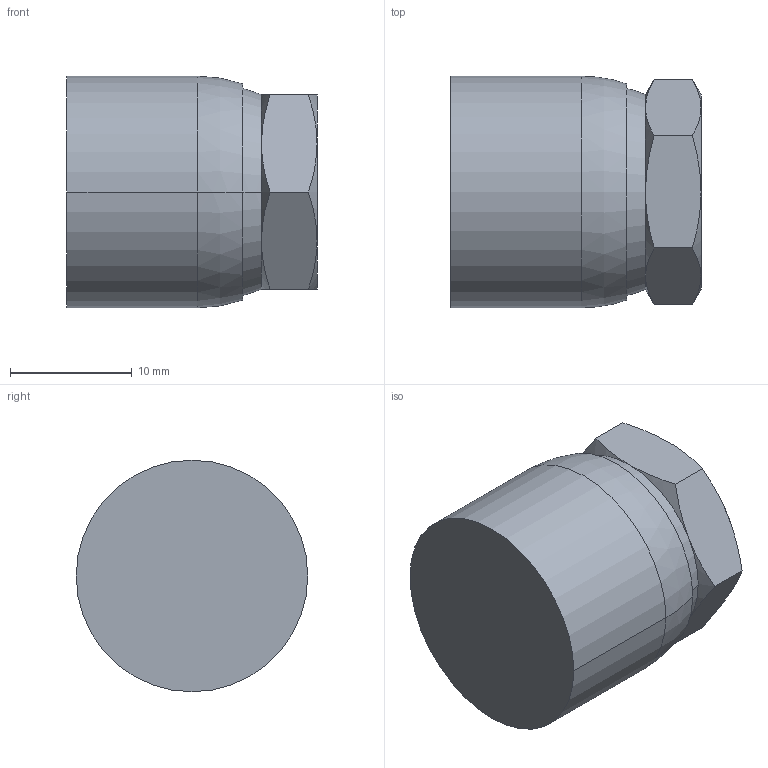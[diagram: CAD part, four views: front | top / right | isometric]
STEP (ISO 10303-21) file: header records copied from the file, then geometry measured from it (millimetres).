
FILE_DESCRIPTION(/* description */ (''),/* implementation_level */ '2;1');
FILE_NAME(/* name */ '624',/* time_stamp */ '2016-08-26T11:54:06-04:00',/* author */ ('Nick'),/* organization */ (''),/* preprocessor_version */ 'ST-DEVELOPER v16.1',/* originating_system */ 'AutoCAD Mechanical',/* authorisation */ '');
FILE_SCHEMA (('AUTOMOTIVE_DESIGN { 1 0 10303 214 3 1 1 }'));
Length unit declared in the file: inch
Products named in the file (1): Product
Bounding box: 20.57 x 19.05 x 19.05 mm (x, y, z)
Volume: 4703.5 mm3; surface area: 2014.2 mm2
Topology: 1 solids, 1 shells, 32 faces, 68 edges, 40 vertices
Faces by surface type: cone 14, plane 10, cylinder 4, sphere 2, bspline 2
Entity records: 886 total; most frequent: CARTESIAN_POINT 217, DIRECTION 138, ORIENTED_EDGE 136, EDGE_CURVE 68, AXIS2_PLACEMENT_3D 63, VERTEX_POINT 40, EDGE_LOOP 34, FACE_OUTER_BOUND 32
